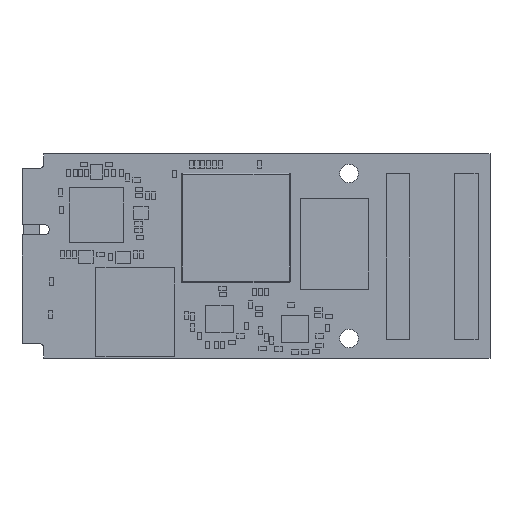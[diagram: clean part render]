
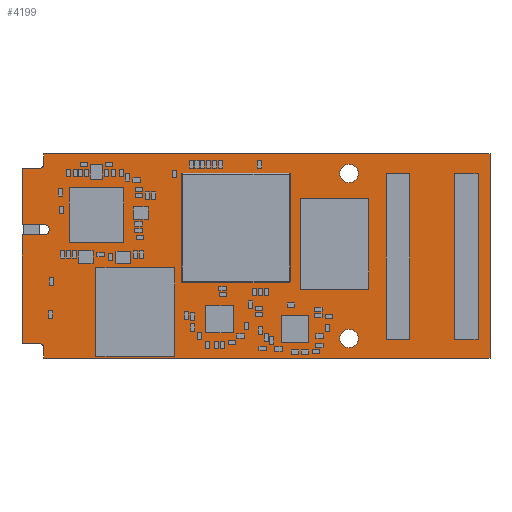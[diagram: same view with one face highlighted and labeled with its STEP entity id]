
A CAD part, top view. The second image highlights one B-rep face of the part: STEP entity #4199.
In plain terms, the highlighted planar face has unit normal (0, 0, 1).
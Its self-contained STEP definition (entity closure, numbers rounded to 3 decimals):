
#4199=ADVANCED_FACE('',(#6669,#6670,#6671),#6672,.T.);
#6669=FACE_BOUND('',#8530,.T.);
#6670=FACE_BOUND('',#8531,.T.);
#6671=FACE_OUTER_BOUND('',#8532,.T.);
#6672=PLANE('',#8533);
#8530=EDGE_LOOP('',(#9567));
#8531=EDGE_LOOP('',(#9568));
#8532=EDGE_LOOP('',(#9569,#9570,#9571,#9572,#9573,#9574,#9575,#9576,#9577,#9578,#9579,#9580,#9581,#9582,#9583,#9584));
#8533=AXIS2_PLACEMENT_3D('',#9585,#9586,#9587);
#9567=ORIENTED_EDGE('',*,*,#12117,.T.);
#9568=ORIENTED_EDGE('',*,*,#12120,.T.);
#9569=ORIENTED_EDGE('',*,*,#12123,.T.);
#9570=ORIENTED_EDGE('',*,*,#12124,.T.);
#9571=ORIENTED_EDGE('',*,*,#12125,.T.);
#9572=ORIENTED_EDGE('',*,*,#12126,.T.);
#9573=ORIENTED_EDGE('',*,*,#12127,.T.);
#9574=ORIENTED_EDGE('',*,*,#12128,.T.);
#9575=ORIENTED_EDGE('',*,*,#12129,.T.);
#9576=ORIENTED_EDGE('',*,*,#12130,.T.);
#9577=ORIENTED_EDGE('',*,*,#12131,.T.);
#9578=ORIENTED_EDGE('',*,*,#12132,.T.);
#9579=ORIENTED_EDGE('',*,*,#12133,.T.);
#9580=ORIENTED_EDGE('',*,*,#12134,.T.);
#9581=ORIENTED_EDGE('',*,*,#12135,.T.);
#9582=ORIENTED_EDGE('',*,*,#12136,.T.);
#9583=ORIENTED_EDGE('',*,*,#12137,.T.);
#9584=ORIENTED_EDGE('',*,*,#12138,.T.);
#9585=CARTESIAN_POINT('',(-17.636,15.139,0.94));
#9586=DIRECTION('',(0.0,0.0,1.0));
#9587=DIRECTION('',(1.0,0.0,0.0));
#12117=EDGE_CURVE('',#13082,#13082,#13083,.T.);
#12120=EDGE_CURVE('',#13087,#13087,#13088,.T.);
#12123=EDGE_CURVE('',#13092,#13093,#13094,.T.);
#12124=EDGE_CURVE('',#13093,#13095,#13096,.T.);
#12125=EDGE_CURVE('',#13095,#13097,#13098,.T.);
#12126=EDGE_CURVE('',#13097,#13099,#13100,.T.);
#12127=EDGE_CURVE('',#13099,#13101,#13102,.T.);
#12128=EDGE_CURVE('',#13101,#13103,#13104,.T.);
#12129=EDGE_CURVE('',#13103,#13105,#13106,.T.);
#12130=EDGE_CURVE('',#13105,#13107,#13108,.T.);
#12131=EDGE_CURVE('',#13107,#13109,#13110,.T.);
#12132=EDGE_CURVE('',#13109,#13111,#13112,.T.);
#12133=EDGE_CURVE('',#13111,#13113,#13114,.T.);
#12134=EDGE_CURVE('',#13113,#13115,#13116,.T.);
#12135=EDGE_CURVE('',#13115,#13117,#13118,.T.);
#12136=EDGE_CURVE('',#13117,#13119,#13120,.T.);
#12137=EDGE_CURVE('',#13119,#13121,#13122,.T.);
#12138=EDGE_CURVE('',#13121,#13092,#13123,.T.);
#13082=VERTEX_POINT('',#14451);
#13083=CIRCLE('',#14452,1.35);
#13087=VERTEX_POINT('',#14456);
#13088=CIRCLE('',#14457,1.35);
#13092=VERTEX_POINT('',#14461);
#13093=VERTEX_POINT('',#14462);
#13094=LINE('',#14463,#14464);
#13095=VERTEX_POINT('',#14465);
#13096=LINE('',#14466,#14467);
#13097=VERTEX_POINT('',#14468);
#13098=CIRCLE('',#14469,0.7);
#13099=VERTEX_POINT('',#14470);
#13100=LINE('',#14471,#14472);
#13101=VERTEX_POINT('',#14473);
#13102=LINE('',#14474,#14475);
#13103=VERTEX_POINT('',#14476);
#13104=LINE('',#14477,#14478);
#13105=VERTEX_POINT('',#14479);
#13106=CIRCLE('',#14480,0.734);
#13107=VERTEX_POINT('',#14481);
#13108=LINE('',#14482,#14483);
#13109=VERTEX_POINT('',#14484);
#13110=CIRCLE('',#14485,0.734);
#13111=VERTEX_POINT('',#14486);
#13112=LINE('',#14487,#14488);
#13113=VERTEX_POINT('',#14489);
#13114=LINE('',#14490,#14491);
#13115=VERTEX_POINT('',#14492);
#13116=LINE('',#14493,#14494);
#13117=VERTEX_POINT('',#14495);
#13118=CIRCLE('',#14496,0.7);
#13119=VERTEX_POINT('',#14497);
#13120=LINE('',#14498,#14499);
#13121=VERTEX_POINT('',#14500);
#13122=LINE('',#14501,#14502);
#13123=LINE('',#14503,#14504);
#14451=CARTESIAN_POINT('',(-2.99,4.25,0.94));
#14452=AXIS2_PLACEMENT_3D('',#16399,#16400,#16401);
#14456=CARTESIAN_POINT('',(-2.99,28.45,0.94));
#14457=AXIS2_PLACEMENT_3D('',#16405,#16406,#16407);
#14461=CARTESIAN_POINT('',(17.7,30.0,0.94));
#14462=CARTESIAN_POINT('',(-47.8,30.,0.94));
#14463=CARTESIAN_POINT('',(-15.05,30.,0.94));
#14464=VECTOR('',#16411,1.0);
#14465=CARTESIAN_POINT('',(-47.8,28.55,0.94));
#14466=CARTESIAN_POINT('',(-47.8,29.275,0.94));
#14467=VECTOR('',#16412,1.0);
#14468=CARTESIAN_POINT('',(-48.5,27.85,0.94));
#14469=AXIS2_PLACEMENT_3D('',#16413,#16414,#16415);
#14470=CARTESIAN_POINT('',(-51.0,27.85,0.94));
#14471=CARTESIAN_POINT('',(-49.75,27.85,0.94));
#14472=VECTOR('',#16416,1.0);
#14473=CARTESIAN_POINT('',(-51.0,19.6,0.94));
#14474=CARTESIAN_POINT('',(-51.0,23.725,0.94));
#14475=VECTOR('',#16417,1.0);
#14476=CARTESIAN_POINT('',(-47.734,19.6,0.94));
#14477=CARTESIAN_POINT('',(-49.367,19.6,0.94));
#14478=VECTOR('',#16418,1.0);
#14479=CARTESIAN_POINT('',(-47.0,18.866,0.94));
#14480=AXIS2_PLACEMENT_3D('',#16419,#16420,#16421);
#14481=CARTESIAN_POINT('',(-47.0,18.834,0.94));
#14482=CARTESIAN_POINT('',(-47.0,18.85,0.94));
#14483=VECTOR('',#16422,1.0);
#14484=CARTESIAN_POINT('',(-47.734,18.1,0.94));
#14485=AXIS2_PLACEMENT_3D('',#16423,#16424,#16425);
#14486=CARTESIAN_POINT('',(-51.0,18.1,0.94));
#14487=CARTESIAN_POINT('',(-49.367,18.1,0.94));
#14488=VECTOR('',#16426,1.0);
#14489=CARTESIAN_POINT('',(-51.0,2.15,0.94));
#14490=CARTESIAN_POINT('',(-51.0,10.125,0.94));
#14491=VECTOR('',#16427,1.0);
#14492=CARTESIAN_POINT('',(-48.5,2.15,0.94));
#14493=CARTESIAN_POINT('',(-49.75,2.15,0.94));
#14494=VECTOR('',#16428,1.0);
#14495=CARTESIAN_POINT('',(-47.8,1.45,0.94));
#14496=AXIS2_PLACEMENT_3D('',#16429,#16430,#16431);
#14497=CARTESIAN_POINT('',(-47.8,0.0,0.94));
#14498=CARTESIAN_POINT('',(-47.8,0.725,0.94));
#14499=VECTOR('',#16432,1.0);
#14500=CARTESIAN_POINT('',(17.7,0.0,0.94));
#14501=CARTESIAN_POINT('',(-15.05,0.0,0.94));
#14502=VECTOR('',#16433,1.0);
#14503=CARTESIAN_POINT('',(17.7,15.0,0.94));
#14504=VECTOR('',#16434,1.0);
#16399=CARTESIAN_POINT('',(-2.99,2.9,0.94));
#16400=DIRECTION('',(0.0,0.0,-1.0));
#16401=DIRECTION('',(0.0,1.0,0.0));
#16405=CARTESIAN_POINT('',(-2.99,27.1,0.94));
#16406=DIRECTION('',(0.0,0.0,-1.0));
#16407=DIRECTION('',(0.0,1.0,0.0));
#16411=DIRECTION('',(-1.0,0.,0.0));
#16412=DIRECTION('',(0.0,-1.0,0.0));
#16413=CARTESIAN_POINT('',(-48.5,28.55,0.94));
#16414=DIRECTION('',(0.0,0.0,-1.0));
#16415=DIRECTION('',(1.0,0.0,0.0));
#16416=DIRECTION('',(-1.0,0.,0.0));
#16417=DIRECTION('',(0.0,-1.0,0.0));
#16418=DIRECTION('',(1.0,0.0,0.0));
#16419=CARTESIAN_POINT('',(-47.734,18.866,0.94));
#16420=DIRECTION('',(0.0,0.0,-1.0));
#16421=DIRECTION('',(0.0,1.0,0.0));
#16422=DIRECTION('',(0.0,-1.0,0.0));
#16423=CARTESIAN_POINT('',(-47.734,18.834,0.94));
#16424=DIRECTION('',(0.0,0.0,-1.0));
#16425=DIRECTION('',(1.0,0.0,0.0));
#16426=DIRECTION('',(-1.0,0.,0.0));
#16427=DIRECTION('',(0.0,-1.0,0.0));
#16428=DIRECTION('',(1.0,0.,0.0));
#16429=CARTESIAN_POINT('',(-48.5,1.45,0.94));
#16430=DIRECTION('',(0.0,0.0,-1.0));
#16431=DIRECTION('',(0.0,1.0,0.0));
#16432=DIRECTION('',(0.,-1.0,0.0));
#16433=DIRECTION('',(1.0,0.0,0.0));
#16434=DIRECTION('',(0.,1.0,0.0));
